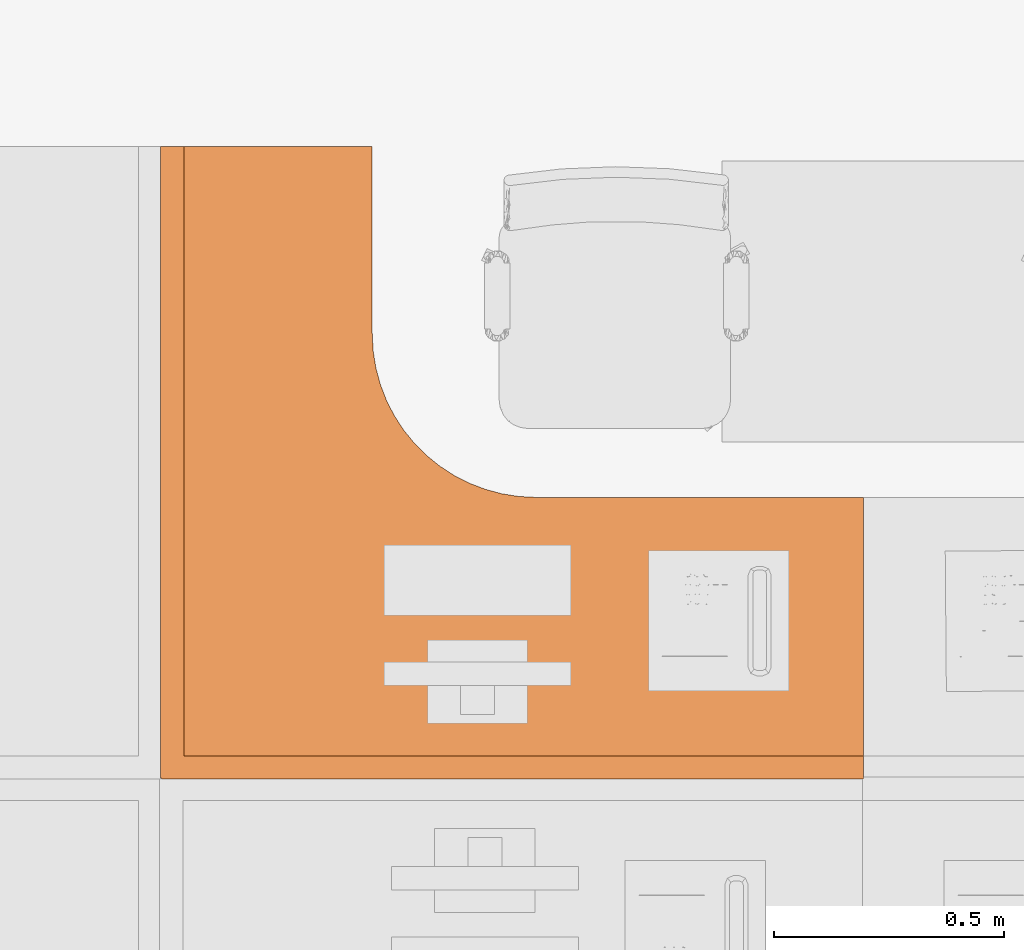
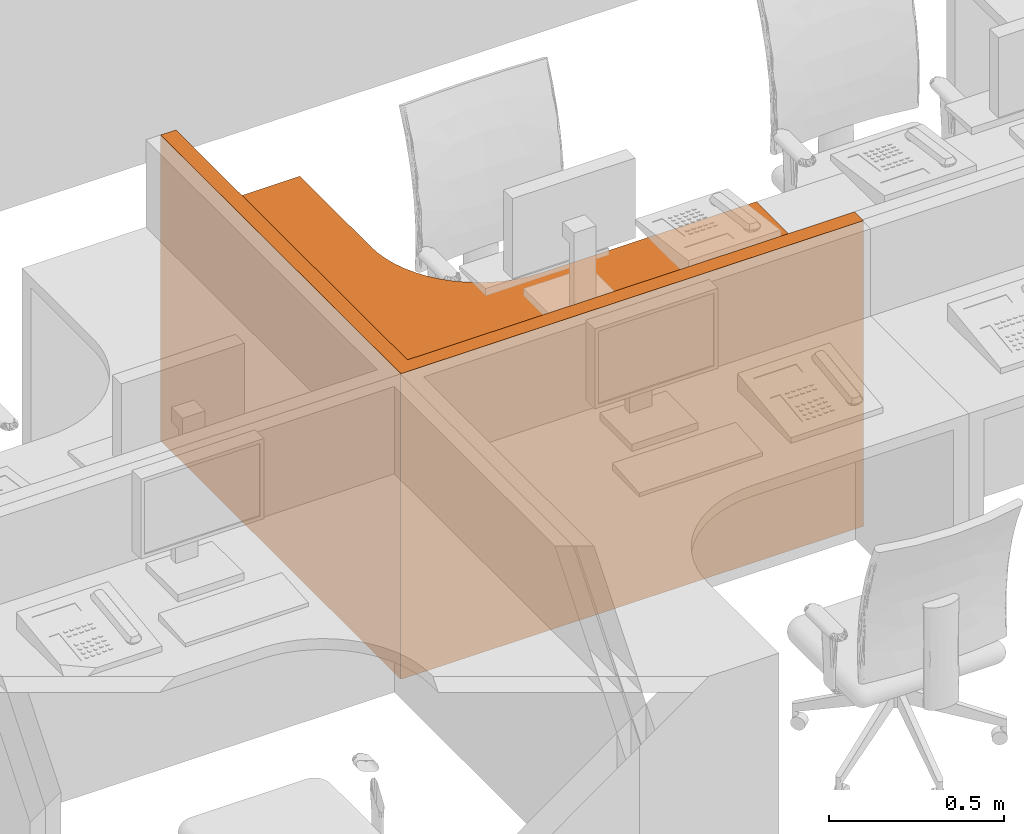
# One storey, part 33 of 142: 1 proxy.
"""IFC2X3 building model written with IfcOpenShell, lengths in feet."""

from ifc_helpers import new_model, entity, si_unit, converted_unit, derived_unit, direction, frame, frame_2d, origin, origin_2d_with_axis, place, context, subcontext, project, spatial, polyline, circle_curve, parameter, trimmed, segment, composite_curve, rectangle, outline, extrude, source, transform, mapped, type_object, type_shapes, element, save


model = new_model("IFC2X3")

# Units and contexts
model_context = context("Model", 3, precision=0.0001, world=origin(), true_north=direction((6.12303176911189e-17, 1.0)))
body_context = subcontext(model_context, "Body", "Model", "MODEL_VIEW")
ifc_project = project(units=[converted_unit("LENGTHUNIT", "FOOT", entity("IfcRatioMeasure", 0.3048), si_unit("LENGTHUNIT", "METRE"), dimensions=[1, 0, 0, 0, 0, 0, 0]), converted_unit("AREAUNIT", "SQUARE FOOT", entity("IfcRatioMeasure", 0.09290304), si_unit("AREAUNIT", "SQUARE_METRE"), dimensions=[2, 0, 0, 0, 0, 0, 0]), converted_unit("VOLUMEUNIT", "CUBIC FOOT", entity("IfcRatioMeasure", 0.028316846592), si_unit("VOLUMEUNIT", "CUBIC_METRE"), dimensions=[3, 0, 0, 0, 0, 0, 0]), converted_unit("PLANEANGLEUNIT", "DEGREE", entity("IfcRatioMeasure", 0.0174532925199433), si_unit("PLANEANGLEUNIT", "RADIAN"), dimensions=[0, 0, 0, 0, 0, 0, 0]), si_unit("MASSUNIT", "GRAM", prefix="KILO"), derived_unit("MASSDENSITYUNIT", [(si_unit("MASSUNIT", "GRAM", prefix="KILO"), 1), (si_unit("LENGTHUNIT", "METRE"), -3)]), si_unit("TIMEUNIT", "SECOND"), si_unit("FREQUENCYUNIT", "HERTZ"), si_unit("THERMODYNAMICTEMPERATUREUNIT", "DEGREE_CELSIUS"), derived_unit("THERMALTRANSMITTANCEUNIT", [(si_unit("MASSUNIT", "GRAM", prefix="KILO"), 1), (si_unit("THERMODYNAMICTEMPERATUREUNIT", "KELVIN"), -1), (si_unit("TIMEUNIT", "SECOND"), -3)]), derived_unit("VOLUMETRICFLOWRATEUNIT", [(si_unit("LENGTHUNIT", "METRE"), 3), (si_unit("TIMEUNIT", "SECOND"), -1)]), si_unit("ELECTRICCURRENTUNIT", "AMPERE"), si_unit("ELECTRICVOLTAGEUNIT", "VOLT"), si_unit("POWERUNIT", "WATT"), si_unit("FORCEUNIT", "NEWTON"), si_unit("ILLUMINANCEUNIT", "LUX"), si_unit("LUMINOUSFLUXUNIT", "LUMEN"), si_unit("LUMINOUSINTENSITYUNIT", "CANDELA"), derived_unit("USERDEFINED", [(si_unit("MASSUNIT", "GRAM", prefix="KILO"), -1), (si_unit("LENGTHUNIT", "METRE"), -2), (si_unit("TIMEUNIT", "SECOND"), 3), (si_unit("LUMINOUSFLUXUNIT", "LUMEN"), 1)]), derived_unit("LINEARVELOCITYUNIT", [(si_unit("LENGTHUNIT", "METRE"), 1), (si_unit("TIMEUNIT", "SECOND"), -1)]), si_unit("PRESSUREUNIT", "PASCAL"), derived_unit("USERDEFINED", [(si_unit("LENGTHUNIT", "METRE"), -2), (si_unit("MASSUNIT", "GRAM", prefix="KILO"), 1), (si_unit("TIMEUNIT", "SECOND"), -2)])], contexts=[model_context])

# Site, building, storey, space
site_placement = place(None, origin())
site = spatial("IfcSite", under=ifc_project, at=site_placement, Name="Default", CompositionType="ELEMENT")
building_placement = place(site_placement, origin())
building = spatial("IfcBuilding", under=site, at=building_placement, Name="OUTPATIENT / PACT CLINIC (Ch. 265)", CompositionType="ELEMENT")
storey_placement = place(building_placement, origin())
storey = spatial("IfcBuildingStorey", under=building, at=storey_placement, Name="LEVEL 1", CompositionType="ELEMENT", Elevation=0.0)
space_placement = place(storey_placement, origin())
space = spatial("IfcSpace", under=storey, at=space_placement, Name="WRTM1", CompositionType="ELEMENT", InteriorOrExteriorSpace="INTERNAL")

# Proxy
building_element_proxy_type = type_object("IfcBuildingElementProxyType", Name="U0075 - Workstation, L-Shaped, Freestanding, 60x54", PredefinedType="NOTDEFINED")
shared_shape = source(origin(), body_context, "Body", "SweptSolid", [
    extrude(rectangle(XDim=0.166666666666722, YDim=2.0, at=frame_2d((-1.3836154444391e-14, 0.0), x_axis=(1.0, 0.0))), frame((0.0833333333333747, -1.0, 0.0), z_axis=(0.0, 0.0, 1.0), x_axis=(-1.0, 0.0, 0.0)), (0.0, 0.0, 1.0), 2.375),
    extrude(rectangle(XDim=0.166666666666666, YDim=1.5, at=frame_2d((0.0, -4.44089209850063e-16), x_axis=(1.0, 0.0))), frame((4.25000000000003, -4.41666666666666, 0.0), z_axis=(0.0, 0.0, 1.0), x_axis=(0.0, 1.0, 0.0)), (0.0, 0.0, 1.0), 2.37499999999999),
    extrude(outline(composite_curve([segment(polyline([(-2.23809523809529, -2.3095238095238), (2.7619047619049, -2.3095238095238)]), True, "CONTINUOUS"), segment(polyline([(2.7619047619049, -2.3095238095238), (2.7619047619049, -0.309523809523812)]), True, "CONTINUOUS"), segment(polyline([(2.7619047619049, -0.309523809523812), (0.428571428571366, -0.309523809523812)]), True, "CONTINUOUS"), segment(trimmed(circle_curve(frame_2d((0.428571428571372, 0.857142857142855), x_axis=(1.0, 0.0)), 1.16666666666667), [parameter(180.0)], [parameter(270.0)], True, "PARAMETER"), False, "CONTINUOUS"), segment(polyline([(-0.738095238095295, 0.857142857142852), (-0.738095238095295, 2.19047619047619)]), True, "CONTINUOUS"), segment(polyline([(-0.738095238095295, 2.19047619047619), (-2.23809523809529, 2.19047619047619)]), True, "CONTINUOUS"), segment(polyline([(-2.23809523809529, 2.19047619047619), (-2.23809523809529, -2.3095238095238)]), True, "CONTINUOUS")], self_intersect=False)), frame((2.76190476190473, -2.30952380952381, 2.37499999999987), z_axis=(0.0, 0.0, 1.0), x_axis=(-1.0, 0.0, 0.0)), (0.0, 0.0, 1.0), 0.125),
    extrude(outline(polyline([(-2.16666666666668, -2.16666666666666), (2.83333333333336, -2.16666666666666), (2.83333333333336, -0.16666666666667), (-0.666666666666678, -0.16666666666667), (-0.666666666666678, 2.33333333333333), (-2.16666666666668, 2.33333333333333), (-2.16666666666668, -2.16666666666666)])), frame((2.83333333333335, -2.16666666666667, 2.37499999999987), z_axis=(0.0, 0.0, 1.0), x_axis=(-1.0, 0.0, 0.0)), (0.0, 0.0, 1.0), 0.125),
    extrude(rectangle(XDim=5.00000000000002, YDim=0.166666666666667, at=origin_2d_with_axis()), frame((2.49999999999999, -0.075000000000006, 0.0), z_axis=(0.0, 0.0, 1.0), x_axis=(-1.0, 0.0, 0.0)), (0.0, 0.0, 1.0), 3.5),
    extrude(rectangle(XDim=4.50000000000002, YDim=0.166666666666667, at=frame_2d((0.0, 4.44089209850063e-16), x_axis=(1.0, 0.0))), frame((4.92500000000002, -2.25000000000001, 0.0), z_axis=(0.0, 0.0, 1.0), x_axis=(0.0, 1.0, 0.0)), (0.0, 0.0, 1.0), 3.5),
])
type_shapes(building_element_proxy_type, [shared_shape])
proxy_placement = place(space_placement, frame((424.367616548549, -922.628851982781, 0.0), z_axis=(0.0, 0.0, 1.0), x_axis=(-1.0, 0.0, 0.0)))
element("IfcBuildingElementProxy", 1, at=proxy_placement, inside=space, type_object=building_element_proxy_type, Name="U0075 - Workstation, L-Shaped, Freestanding, 60x54:U0075 - Workstation, L-Shaped, Freestanding, 60x54", ObjectType="U0075 - Workstation, L-Shaped, Freestanding, 60x54", context=body_context, shape_type="MappedRepresentation", body=[
    mapped(shared_shape, transform((0.0, 0.0, 0.0), scale=1.0)),
])

save(model, "model.ifc")
